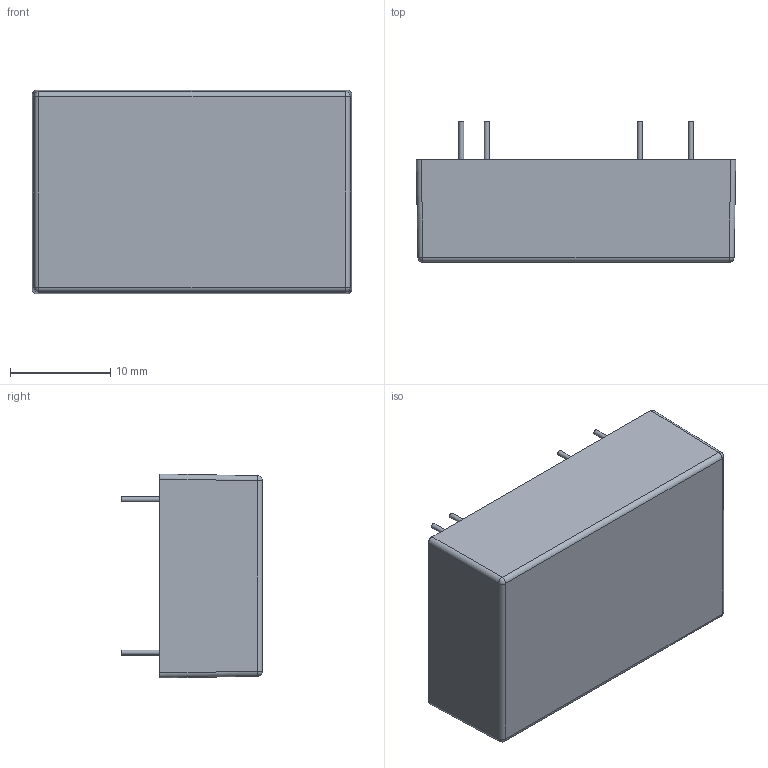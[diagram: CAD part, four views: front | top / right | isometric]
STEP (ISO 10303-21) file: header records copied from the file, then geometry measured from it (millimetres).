
FILE_DESCRIPTION (( 'STEP AP203' ), '1' );
FILE_NAME ('EC3AW8&EC4AW8 3D¹ÏStandard 2025.08.28.STEP', '2025-09-02T01:54:44', ( '' ), ( '' ), 'SwSTEP 2.0', 'SolidWorks 2020', '' );
FILE_SCHEMA (( 'CONFIG_CONTROL_DESIGN' ));
Length unit declared in the file: millimetre
Products named in the file (1): EC3AW8&EC4AW8 3D¹ÏStandard 2025.08.28
Bounding box: 31.8 x 14 x 20.3 mm (x, y, z)
Volume: 6397 mm3; surface area: 3923.1 mm2
Topology: 1 solids, 20 shells, 366 faces, 912 edges, 600 vertices
Faces by surface type: plane 243, cylinder 94, bspline 25, sphere 4
Full cylindrical faces by diameter (mm): 0.5 x24
Entity records: 12841 total; most frequent: CARTESIAN_POINT 4158, ORIENTED_EDGE 1760, DIRECTION 1690, EDGE_CURVE 880, VECTOR 642, LINE 642, VERTEX_POINT 596, AXIS2_PLACEMENT_3D 524
